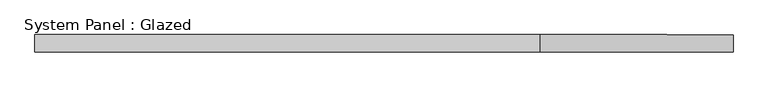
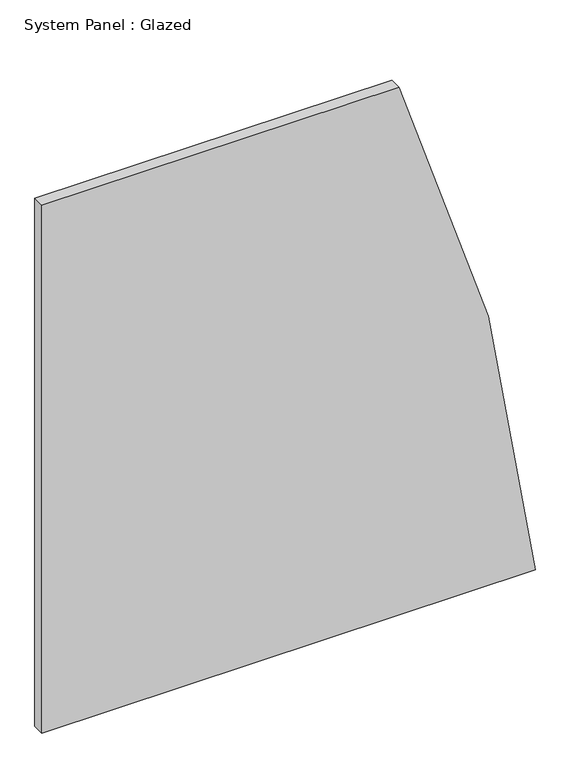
"""IFC4 building model written with IfcOpenShell, lengths in millimetres: plate geometry, System Panel : Glazed."""

from ifc_helpers import new_model, si_unit, point, frame, frame_2d, origin, place, context, project, spatial, polyline, circle_curve, trimmed, segment, composite_curve, outline, extrude, source, transform, mapped, element, save


def system_panel_glazed_06496461(model_context):
    return source(origin(), model_context, "Body", "SweptSolid", [
        extrude(outline(composite_curve([segment(polyline([(0.0, -511.1558805), (0.0, 511.1558805)]), True, "CONTINUOUS"), segment(trimmed(circle_curve(frame_2d((-336.55, -3373.1915946)), 3898.9), [point((0.0, 511.1558805))], [point((1155.7, 228.8371598))], False, "CARTESIAN"), True, "CONTINUOUS"), segment(polyline([(1155.7, 228.8371598), (1155.7, -511.1558805), (0.0, -511.1558805)]), True, "CONTINUOUS")], self_intersect=False)), frame((0.0, 19.05, 0.0), z_axis=(0.0, 1.0, 0.0), x_axis=(0.0, 0.0, 1.0)), (0.0, 0.0, 1.0), 25.4),
    ])


if __name__ == "__main__":
    model = new_model("IFC4")
    model_context = context("Model", 3, world=origin())
    ifc_project = project(units=[si_unit("LENGTHUNIT", "METRE", prefix="MILLI")], contexts=[model_context])
    site = spatial("IfcSite", under=ifc_project)
    building = spatial("IfcBuilding", under=site)
    placement = place(None, origin())
    system_panel_glazed_shape = system_panel_glazed_06496461(model_context)
    element("IfcPlate", 1, ObjectType="System Panel : Glazed", at=placement, inside=building, context=model_context, shape_type="MappedRepresentation", body=[
        mapped(system_panel_glazed_shape, transform((0.0, 0.0, 0.0), x_axis=(1.0, 0.0, 0.0), y_axis=(0.0, 1.0, 0.0), z_axis=(0.0, 0.0, 1.0))),
    ])
    save(model, "model.ifc")
